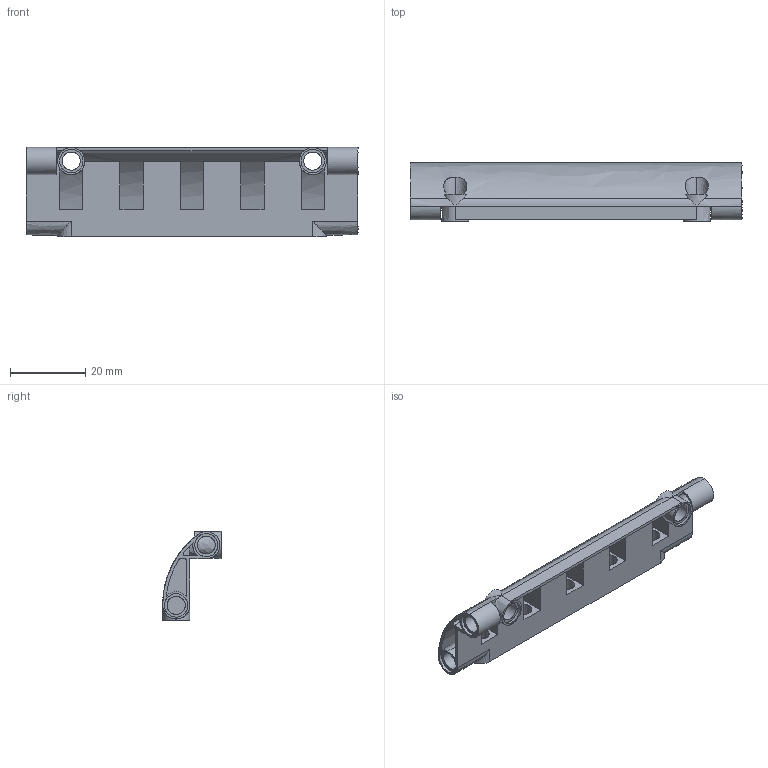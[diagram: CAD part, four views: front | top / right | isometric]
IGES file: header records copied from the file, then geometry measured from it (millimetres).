
Start section: C
Global section: file name: Ye_4540613_AVV.iges; native system: By Siemens PLM Incorporated; preprocessor: XPlus GENERIC/IGES 26.1.183; author: Author; organization: Title; date: 20250722.001005; units: millimetre
Bounding box: 88 x 15.6 x 23.6 mm (x, y, z)
Surface area: 10722.2 mm2 (no closed solid volume)
Topology: 0 solids, 0 shells, 188 faces, 1024 edges, 1024 vertices
Faces by surface type: bspline 188
